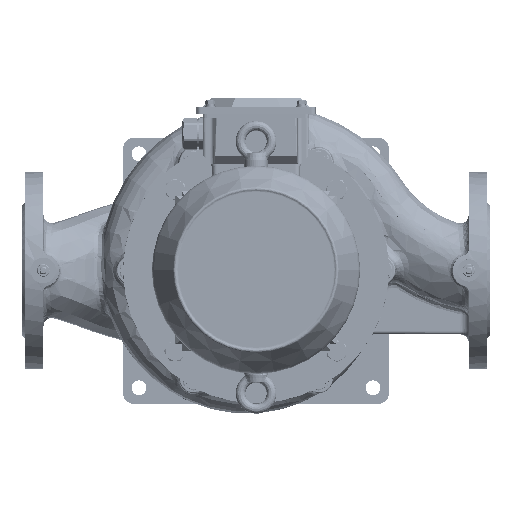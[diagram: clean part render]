
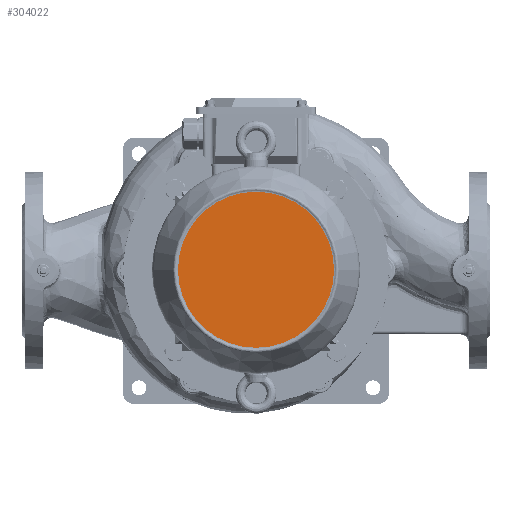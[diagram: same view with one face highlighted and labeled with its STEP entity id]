
A CAD part, top view. The second image highlights one B-rep face of the part: STEP entity #304022.
In plain terms, the highlighted planar face has unit normal (0, 0, 1) as drawn and (0, 1, 0) by its records, which use the part's own axes.
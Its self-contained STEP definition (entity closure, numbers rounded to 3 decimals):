
#274972=CARTESIAN_POINT('',(0.,62.61,
0.));
#274973=DIRECTION('',(0.,-1.,0.));
#274974=DIRECTION('',(0.,0.,1.));
#274975=AXIS2_PLACEMENT_3D('',#274972,#274973,#274974);
#274977=CARTESIAN_POINT('',(0.,62.61,
0.));
#274978=DIRECTION('',(0.,-1.,0.));
#274979=DIRECTION('',(0.,0.,-1.));
#274980=AXIS2_PLACEMENT_3D('',#274977,#274978,#274979);
#279423=CARTESIAN_POINT('',(0.,62.61,
-73.366));
#279424=VERTEX_POINT('',#279423);
#279425=CARTESIAN_POINT('',(0.,62.61,
73.366));
#279426=VERTEX_POINT('',#279425);
#304013=CARTESIAN_POINT('',(0.,62.61,
0.));
#304014=DIRECTION('',(0.,1.,0.));
#304015=DIRECTION('',(0.,0.,-1.));
#304016=AXIS2_PLACEMENT_3D('',#304013,#304014,#304015);
#304017=PLANE('',#304016);
#304018=ORIENTED_EDGE('',*,*,#304006,.T.);
#304019=ORIENTED_EDGE('',*,*,#303992,.T.);
#304020=EDGE_LOOP('',(#304018,#304019));
#304021=FACE_OUTER_BOUND('',#304020,.F.);
#304022=ADVANCED_FACE('',(#304021),#304017,.T.);
#274976=CIRCLE('',#274975,73.366);
#274981=CIRCLE('',#274980,73.366);
#303992=EDGE_CURVE('',#279424,#279426,#274981,.T.);
#304006=EDGE_CURVE('',#279426,#279424,#274976,.T.);
